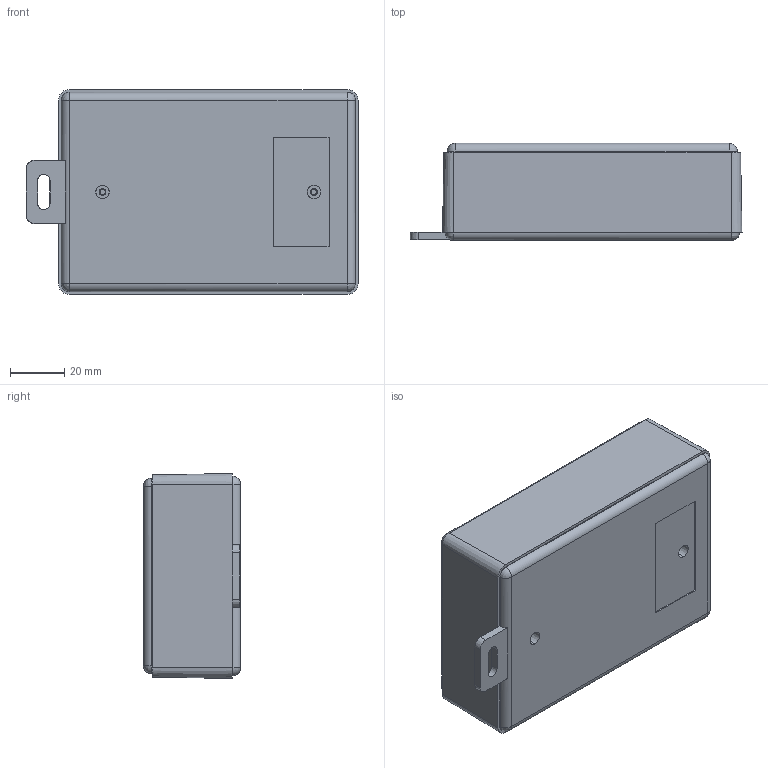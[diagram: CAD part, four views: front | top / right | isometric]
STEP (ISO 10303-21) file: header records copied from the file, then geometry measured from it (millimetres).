
FILE_DESCRIPTION (( 'STEP AP203' ), '1' );
FILE_NAME ('HH-060-A.STEP', '2018-07-20T07:03:41', ( '' ), ( '' ), 'SwSTEP 2.0', 'SolidWorks 2018', '' );
FILE_SCHEMA (( 'CONFIG_CONTROL_DESIGN' ));
Length unit declared in the file: millimetre
Products named in the file (3): HH-060-P-1; HH-060-P-2; HH-060-A
Assembly tree (2 placements, depth 2):
  HH-060-A
    HH-060-P-2
    HH-060-P-1
Bounding box: 121.95 x 35.7 x 75.3 mm (x, y, z)
Volume: 66179.5 mm3; surface area: 59798.3 mm2
Topology: 2 solids, 2 shells, 148 faces, 346 edges, 216 vertices
Faces by surface type: plane 61, cone 53, cylinder 26, bspline 8
Entity records: 6077 total; most frequent: CARTESIAN_POINT 2377, DIRECTION 732, ORIENTED_EDGE 676, EDGE_CURVE 338, AXIS2_PLACEMENT_3D 275, VERTEX_POINT 216, VECTOR 182, LINE 182
